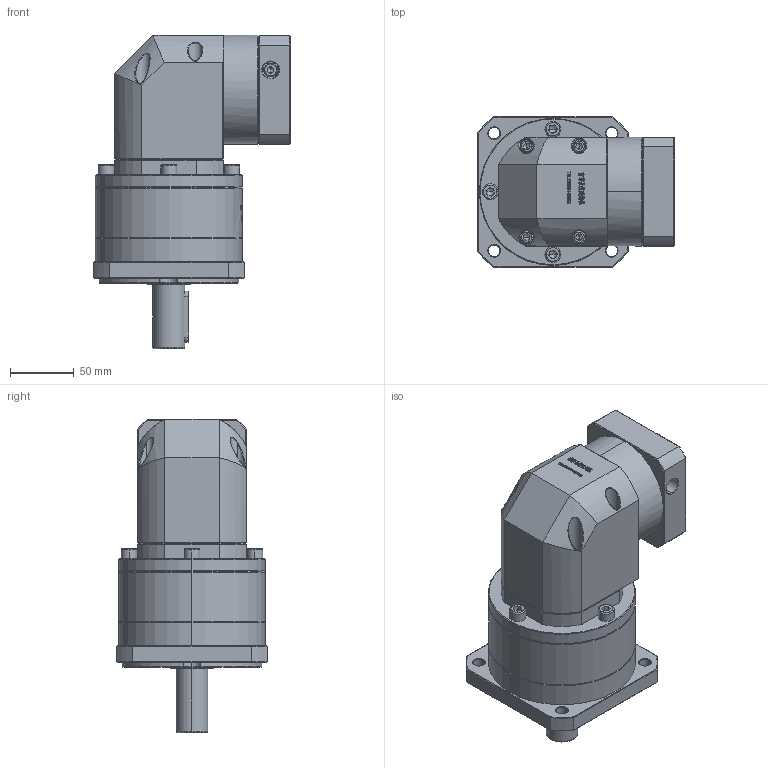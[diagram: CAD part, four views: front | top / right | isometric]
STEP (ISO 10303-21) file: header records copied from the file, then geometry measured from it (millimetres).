
FILE_DESCRIPTION (( 'STEP AP214' ), '1' );
FILE_NAME ('ZFR120A-D25-L2-19-70-90-M5.step', '2023-03-08T05:46:13', ( '' ), ( '' ), 'SwSTEP 2.0', 'SolidWorks 2016', '' );
FILE_SCHEMA (( 'AUTOMOTIVE_DESIGN' ));
Length unit declared in the file: millimetre
Products named in the file (1): ZFR120A-D25-L2-19-70-90-M5
Bounding box: 154.1 x 118 x 245 mm (x, y, z)
Volume: 1855388.3 mm3; surface area: 169981.3 mm2
Topology: 6 solids, 6 shells, 2999 faces, 7953 edges, 5100 vertices
Faces by surface type: plane 1578, bspline 625, cylinder 453, cone 329, torus 14
Entity records: 163536 total; most frequent: CARTESIAN_POINT 62146, ORIENTED_EDGE 15814, DIRECTION 11641, EDGE_CURVE 7907, VERTEX_POINT 5100, VECTOR 4929, LINE 4929, AXIS2_PLACEMENT_3D 3356
